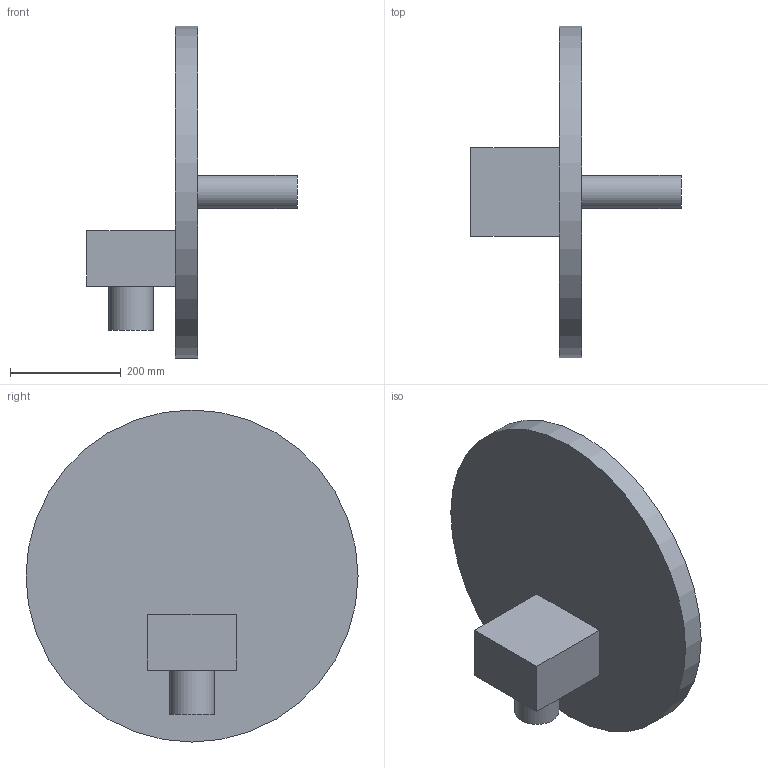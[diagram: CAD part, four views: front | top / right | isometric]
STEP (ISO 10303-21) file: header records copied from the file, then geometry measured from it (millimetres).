
FILE_DESCRIPTION(/* description */ (''),/* implementation_level */ '2;1');
FILE_NAME(/* name */ 'comm_relay.step',/* time_stamp */ '2026-11-14T21:13:12+01:00',/* author */ ('malgo'),/* organization */ (''),/* preprocessor_version */ 'ST-DEVELOPER v20.1',/* originating_system */ 'Autodesk Inventor 2026',/* authorisation */ '');
FILE_SCHEMA (('AUTOMOTIVE_DESIGN { 1 0 10303 214 3 1 1 }'));
Length unit declared in the file: metre
Products named in the file (1): comm_relay
Bounding box: 380 x 600 x 600 mm (x, y, z)
Volume: 14780795.4 mm3; surface area: 778120.3 mm2
Topology: 1 solids, 1 shells, 12 faces, 21 edges, 14 vertices
Faces by surface type: plane 9, cylinder 3
Full cylindrical faces by diameter (mm): 60 x1, 80 x1, 600 x1
Entity records: 328 total; most frequent: DIRECTION 53, CARTESIAN_POINT 48, ORIENTED_EDGE 42, EDGE_CURVE 21, AXIS2_PLACEMENT_3D 19, EDGE_LOOP 15, LINE 15, VECTOR 15
